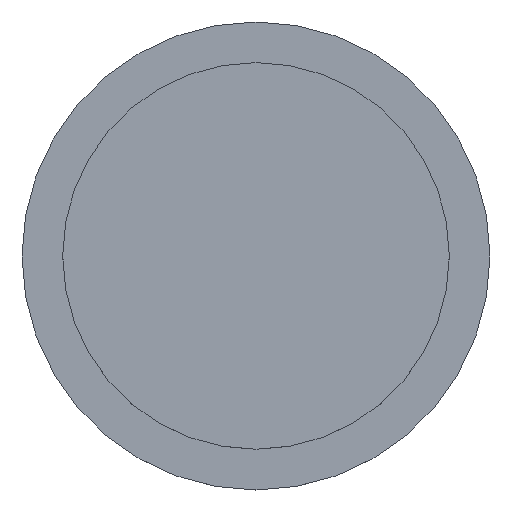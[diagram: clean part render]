
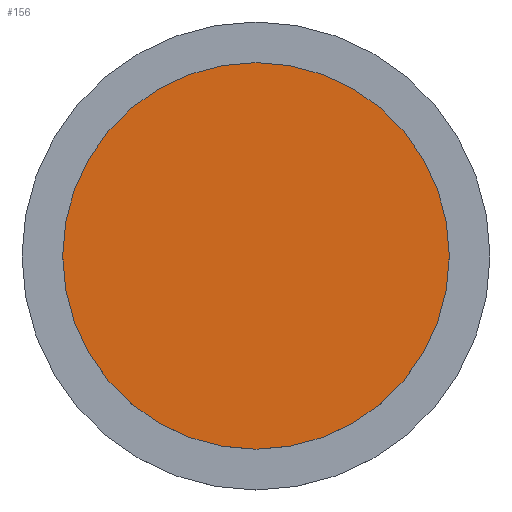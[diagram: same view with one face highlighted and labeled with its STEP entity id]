
A CAD part, top view. The second image highlights one B-rep face of the part: STEP entity #156.
In plain terms, the highlighted planar face has unit normal (0, 0, 1).
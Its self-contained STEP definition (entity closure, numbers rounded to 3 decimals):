
#110 = VERTEX_POINT('',#111);
#111 = CARTESIAN_POINT('',(30.7,61.3,13.5));
#117 = EDGE_CURVE('',#110,#110,#118,.T.);
#118 = CIRCLE('',#119,5.7);
#119 = AXIS2_PLACEMENT_3D('',#120,#121,#122);
#120 = CARTESIAN_POINT('',(25.,61.3,13.5));
#121 = DIRECTION('',(0.,0.,1.));
#122 = DIRECTION('',(1.,0.,0.));
#156 = ADVANCED_FACE('',(#157),#160,.T.);
#157 = FACE_BOUND('',#158,.F.);
#158 = EDGE_LOOP('',(#159));
#159 = ORIENTED_EDGE('',*,*,#117,.F.);
#160 = PLANE('',#161);
#161 = AXIS2_PLACEMENT_3D('',#162,#163,#164);
#162 = CARTESIAN_POINT('',(25.,61.3,13.5));
#163 = DIRECTION('',(0.,0.,1.));
#164 = DIRECTION('',(1.,0.,0.));
